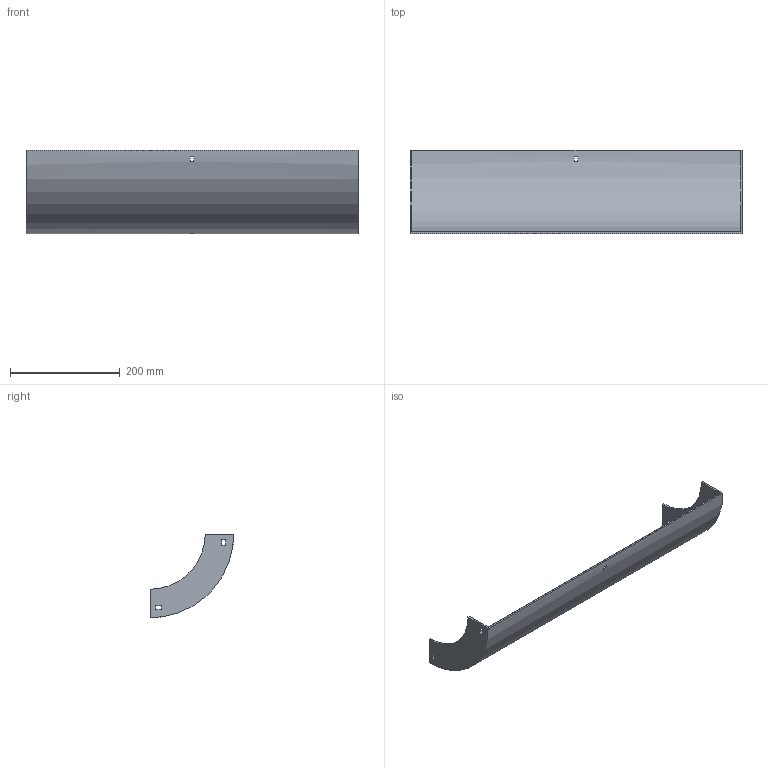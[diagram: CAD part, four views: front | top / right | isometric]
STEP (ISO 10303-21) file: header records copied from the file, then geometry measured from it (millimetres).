
FILE_DESCRIPTION (( 'STEP AP214' ), '1' );
FILE_NAME ('30B1B600.step', '2025-02-21T09:49:50', ( '' ), ( '' ), 'SwSTEP 2.0', 'SolidWorks 2023', '' );
FILE_SCHEMA (( 'AUTOMOTIVE_DESIGN' ));
Length unit declared in the file: millimetre
Products named in the file (1): 30B1B600
Bounding box: 604 x 152 x 152 mm (x, y, z)
Volume: 563798.3 mm3; surface area: 328890.7 mm2
Topology: 1 solids, 1 shells, 34 faces, 96 edges, 64 vertices
Faces by surface type: plane 30, cylinder 4
Entity records: 1143 total; most frequent: CARTESIAN_POINT 195, ORIENTED_EDGE 192, DIRECTION 182, EDGE_CURVE 96, VECTOR 80, LINE 80, VERTEX_POINT 64, AXIS2_PLACEMENT_3D 51
